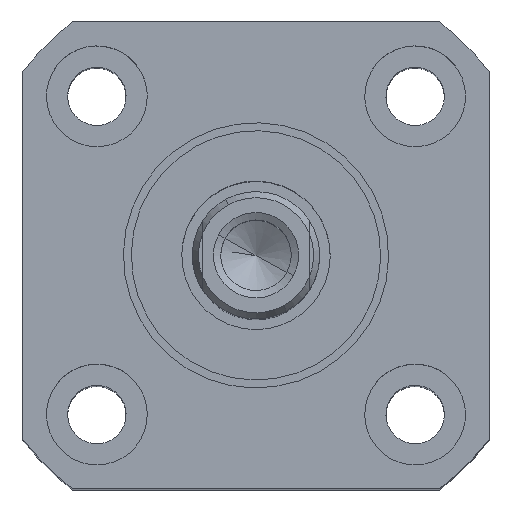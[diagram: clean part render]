
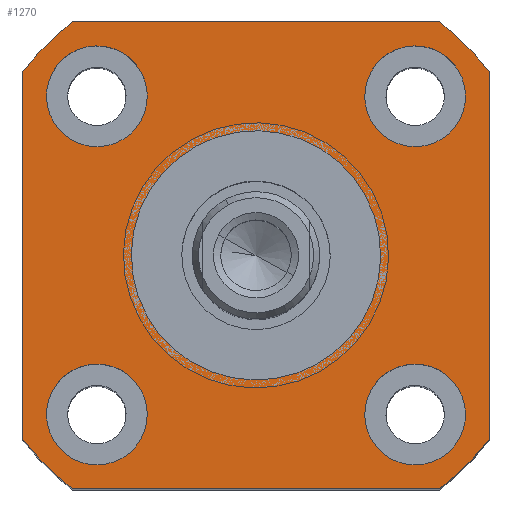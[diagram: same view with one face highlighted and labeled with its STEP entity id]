
A CAD part, top view. The second image highlights one B-rep face of the part: STEP entity #1270.
In plain terms, the highlighted planar face has unit normal (0, 0, 1).
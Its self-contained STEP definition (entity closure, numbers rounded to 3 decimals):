
#240=CARTESIAN_POINT('Vertex',(22.,-17.321,68.)) ;
#243=CARTESIAN_POINT('Axis2P3D Location',(0.,0.,68.)) ;
#247=CARTESIAN_POINT('Vertex',(17.321,-22.,68.)) ;
#324=CARTESIAN_POINT('Line Origine',(0.,-22.,68.)) ;
#328=CARTESIAN_POINT('Vertex',(-17.321,-22.,68.)) ;
#348=CARTESIAN_POINT('Line Origine',(0.,22.,68.)) ;
#352=CARTESIAN_POINT('Vertex',(17.321,22.,68.)) ;
#354=CARTESIAN_POINT('Vertex',(-17.321,22.,68.)) ;
#849=CARTESIAN_POINT('Axis2P3D Location',(15.,15.,68.)) ;
#853=CARTESIAN_POINT('Vertex',(12.723,10.831,68.)) ;
#855=CARTESIAN_POINT('Vertex',(17.277,19.169,68.)) ;
#884=CARTESIAN_POINT('Axis2P3D Location',(15.,15.,68.)) ;
#906=CARTESIAN_POINT('Axis2P3D Location',(15.,-15.,68.)) ;
#910=CARTESIAN_POINT('Vertex',(10.831,-12.723,68.)) ;
#912=CARTESIAN_POINT('Vertex',(19.169,-17.277,68.)) ;
#941=CARTESIAN_POINT('Axis2P3D Location',(15.,-15.,68.)) ;
#963=CARTESIAN_POINT('Axis2P3D Location',(-15.,-15.,68.)) ;
#967=CARTESIAN_POINT('Vertex',(-12.723,-10.831,68.)) ;
#969=CARTESIAN_POINT('Vertex',(-17.277,-19.169,68.)) ;
#998=CARTESIAN_POINT('Axis2P3D Location',(-15.,-15.,68.)) ;
#1024=CARTESIAN_POINT('Vertex',(-5.633,10.312,68.)) ;
#1031=CARTESIAN_POINT('Vertex',(5.633,-10.312,68.)) ;
#1034=CARTESIAN_POINT('Axis2P3D Location',(0.,0.,68.)) ;
#1046=CARTESIAN_POINT('Axis2P3D Location',(0.,0.,68.)) ;
#1063=CARTESIAN_POINT('Axis2P3D Location',(-15.,15.,68.)) ;
#1067=CARTESIAN_POINT('Vertex',(-10.831,12.723,68.)) ;
#1069=CARTESIAN_POINT('Vertex',(-19.169,17.277,68.)) ;
#1098=CARTESIAN_POINT('Axis2P3D Location',(-15.,15.,68.)) ;
#1160=CARTESIAN_POINT('Vertex',(-22.,17.321,68.)) ;
#1163=CARTESIAN_POINT('Axis2P3D Location',(0.,0.,68.)) ;
#1179=CARTESIAN_POINT('Vertex',(-22.,-17.321,68.)) ;
#1182=CARTESIAN_POINT('Axis2P3D Location',(0.,0.,68.)) ;
#1199=CARTESIAN_POINT('Line Origine',(-22.,0.,68.)) ;
#1215=CARTESIAN_POINT('Vertex',(22.,17.321,68.)) ;
#1218=CARTESIAN_POINT('Axis2P3D Location',(0.,0.,68.)) ;
#1230=CARTESIAN_POINT('Axis2P3D Location',(0.,28.,68.)) ;
#1235=CARTESIAN_POINT('Line Origine',(22.,0.,68.)) ;
#244=DIRECTION('Axis2P3D Direction',(0.,0.,1.)) ;
#325=DIRECTION('Vector Direction',(-1.,0.,0.)) ;
#349=DIRECTION('Vector Direction',(1.,0.,0.)) ;
#850=DIRECTION('Axis2P3D Direction',(-0.,0.,-1.)) ;
#885=DIRECTION('Axis2P3D Direction',(-0.,0.,-1.)) ;
#907=DIRECTION('Axis2P3D Direction',(0.,0.,-1.)) ;
#942=DIRECTION('Axis2P3D Direction',(0.,0.,-1.)) ;
#964=DIRECTION('Axis2P3D Direction',(0.,0.,-1.)) ;
#999=DIRECTION('Axis2P3D Direction',(0.,0.,-1.)) ;
#1035=DIRECTION('Axis2P3D Direction',(0.,0.,1.)) ;
#1047=DIRECTION('Axis2P3D Direction',(0.,0.,1.)) ;
#1064=DIRECTION('Axis2P3D Direction',(0.,-0.,-1.)) ;
#1099=DIRECTION('Axis2P3D Direction',(0.,-0.,-1.)) ;
#1164=DIRECTION('Axis2P3D Direction',(0.,0.,1.)) ;
#1183=DIRECTION('Axis2P3D Direction',(0.,0.,1.)) ;
#1200=DIRECTION('Vector Direction',(0.,-1.,0.)) ;
#1219=DIRECTION('Axis2P3D Direction',(0.,0.,1.)) ;
#1231=DIRECTION('Axis2P3D Direction',(0.,0.,1.)) ;
#1232=DIRECTION('Axis2P3D XDirection',(1.,0.,0.)) ;
#1236=DIRECTION('Vector Direction',(0.,1.,0.)) ;
#245=AXIS2_PLACEMENT_3D('Circle Axis2P3D',#243,#244,$) ;
#851=AXIS2_PLACEMENT_3D('Circle Axis2P3D',#849,#850,$) ;
#886=AXIS2_PLACEMENT_3D('Circle Axis2P3D',#884,#885,$) ;
#908=AXIS2_PLACEMENT_3D('Circle Axis2P3D',#906,#907,$) ;
#943=AXIS2_PLACEMENT_3D('Circle Axis2P3D',#941,#942,$) ;
#965=AXIS2_PLACEMENT_3D('Circle Axis2P3D',#963,#964,$) ;
#1000=AXIS2_PLACEMENT_3D('Circle Axis2P3D',#998,#999,$) ;
#1036=AXIS2_PLACEMENT_3D('Circle Axis2P3D',#1034,#1035,$) ;
#1048=AXIS2_PLACEMENT_3D('Circle Axis2P3D',#1046,#1047,$) ;
#1065=AXIS2_PLACEMENT_3D('Circle Axis2P3D',#1063,#1064,$) ;
#1100=AXIS2_PLACEMENT_3D('Circle Axis2P3D',#1098,#1099,$) ;
#1165=AXIS2_PLACEMENT_3D('Circle Axis2P3D',#1163,#1164,$) ;
#1184=AXIS2_PLACEMENT_3D('Circle Axis2P3D',#1182,#1183,$) ;
#1220=AXIS2_PLACEMENT_3D('Circle Axis2P3D',#1218,#1219,$) ;
#1233=AXIS2_PLACEMENT_3D('Plane Axis2P3D',#1230,#1231,#1232) ;
#1241=ORIENTED_EDGE('',*,*,#1239,.T.) ;
#1242=ORIENTED_EDGE('',*,*,#1222,.T.) ;
#1243=ORIENTED_EDGE('',*,*,#356,.T.) ;
#1244=ORIENTED_EDGE('',*,*,#1167,.T.) ;
#1245=ORIENTED_EDGE('',*,*,#1203,.T.) ;
#1246=ORIENTED_EDGE('',*,*,#1186,.T.) ;
#1247=ORIENTED_EDGE('',*,*,#330,.T.) ;
#1248=ORIENTED_EDGE('',*,*,#249,.T.) ;
#1251=ORIENTED_EDGE('',*,*,#1102,.F.) ;
#1252=ORIENTED_EDGE('',*,*,#1071,.F.) ;
#1255=ORIENTED_EDGE('',*,*,#1050,.F.) ;
#1256=ORIENTED_EDGE('',*,*,#1038,.F.) ;
#1259=ORIENTED_EDGE('',*,*,#1002,.F.) ;
#1260=ORIENTED_EDGE('',*,*,#971,.F.) ;
#1263=ORIENTED_EDGE('',*,*,#945,.F.) ;
#1264=ORIENTED_EDGE('',*,*,#914,.F.) ;
#1267=ORIENTED_EDGE('',*,*,#888,.F.) ;
#1268=ORIENTED_EDGE('',*,*,#857,.F.) ;
#1253=FACE_BOUND('',#1250,.T.) ;
#1257=FACE_BOUND('',#1254,.T.) ;
#1261=FACE_BOUND('',#1258,.T.) ;
#1265=FACE_BOUND('',#1262,.T.) ;
#1269=FACE_BOUND('',#1266,.T.) ;
#326=VECTOR('Line Direction',#325,1.) ;
#350=VECTOR('Line Direction',#349,1.) ;
#1201=VECTOR('Line Direction',#1200,1.) ;
#1237=VECTOR('Line Direction',#1236,1.) ;
#1270=ADVANCED_FACE('PartBody',(#1249,#1253,#1257,#1261,#1265,#1269),#1234,.T.) ;
#246=CIRCLE('generated circle',#245,28.) ;
#852=CIRCLE('generated circle',#851,4.75) ;
#887=CIRCLE('generated circle',#886,4.75) ;
#909=CIRCLE('generated circle',#908,4.75) ;
#944=CIRCLE('generated circle',#943,4.75) ;
#966=CIRCLE('generated circle',#965,4.75) ;
#1001=CIRCLE('generated circle',#1000,4.75) ;
#1037=CIRCLE('generated circle',#1036,11.75) ;
#1049=CIRCLE('generated circle',#1048,11.75) ;
#1066=CIRCLE('generated circle',#1065,4.75) ;
#1101=CIRCLE('generated circle',#1100,4.75) ;
#1166=CIRCLE('generated circle',#1165,28.) ;
#1185=CIRCLE('generated circle',#1184,28.) ;
#1221=CIRCLE('generated circle',#1220,28.) ;
#249=EDGE_CURVE('',#248,#241,#246,.T.) ;
#330=EDGE_CURVE('',#329,#248,#327,.F.) ;
#356=EDGE_CURVE('',#353,#355,#351,.F.) ;
#857=EDGE_CURVE('',#854,#856,#852,.F.) ;
#888=EDGE_CURVE('',#856,#854,#887,.F.) ;
#914=EDGE_CURVE('',#911,#913,#909,.F.) ;
#945=EDGE_CURVE('',#913,#911,#944,.F.) ;
#971=EDGE_CURVE('',#968,#970,#966,.F.) ;
#1002=EDGE_CURVE('',#970,#968,#1001,.F.) ;
#1038=EDGE_CURVE('',#1032,#1025,#1037,.T.) ;
#1050=EDGE_CURVE('',#1025,#1032,#1049,.T.) ;
#1071=EDGE_CURVE('',#1068,#1070,#1066,.F.) ;
#1102=EDGE_CURVE('',#1070,#1068,#1101,.F.) ;
#1167=EDGE_CURVE('',#355,#1161,#1166,.T.) ;
#1186=EDGE_CURVE('',#1180,#329,#1185,.T.) ;
#1203=EDGE_CURVE('',#1161,#1180,#1202,.T.) ;
#1222=EDGE_CURVE('',#1216,#353,#1221,.T.) ;
#1239=EDGE_CURVE('',#241,#1216,#1238,.T.) ;
#1240=EDGE_LOOP('',(#1241,#1242,#1243,#1244,#1245,#1246,#1247,#1248)) ;
#1250=EDGE_LOOP('',(#1251,#1252)) ;
#1254=EDGE_LOOP('',(#1255,#1256)) ;
#1258=EDGE_LOOP('',(#1259,#1260)) ;
#1262=EDGE_LOOP('',(#1263,#1264)) ;
#1266=EDGE_LOOP('',(#1267,#1268)) ;
#1249=FACE_OUTER_BOUND('',#1240,.T.) ;
#327=LINE('Line',#324,#326) ;
#351=LINE('Line',#348,#350) ;
#1202=LINE('Line',#1199,#1201) ;
#1238=LINE('Line',#1235,#1237) ;
#1234=PLANE('Plane',#1233) ;
#241=VERTEX_POINT('',#240) ;
#248=VERTEX_POINT('',#247) ;
#329=VERTEX_POINT('',#328) ;
#353=VERTEX_POINT('',#352) ;
#355=VERTEX_POINT('',#354) ;
#854=VERTEX_POINT('',#853) ;
#856=VERTEX_POINT('',#855) ;
#911=VERTEX_POINT('',#910) ;
#913=VERTEX_POINT('',#912) ;
#968=VERTEX_POINT('',#967) ;
#970=VERTEX_POINT('',#969) ;
#1025=VERTEX_POINT('',#1024) ;
#1032=VERTEX_POINT('',#1031) ;
#1068=VERTEX_POINT('',#1067) ;
#1070=VERTEX_POINT('',#1069) ;
#1161=VERTEX_POINT('',#1160) ;
#1180=VERTEX_POINT('',#1179) ;
#1216=VERTEX_POINT('',#1215) ;
